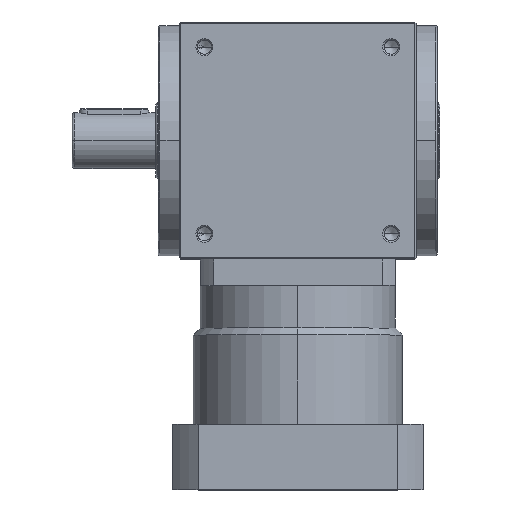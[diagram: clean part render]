
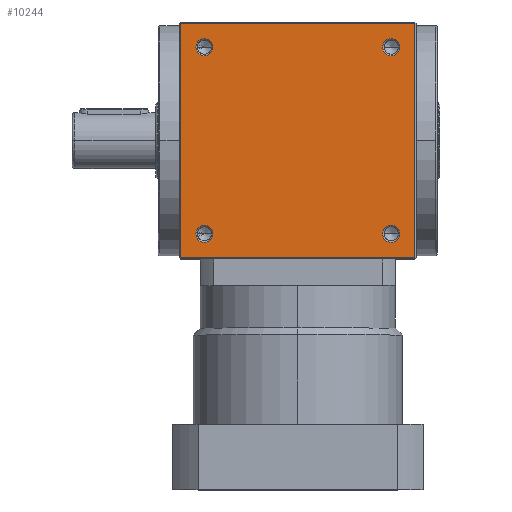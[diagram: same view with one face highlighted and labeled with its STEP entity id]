
A CAD part, top view. The second image highlights one B-rep face of the part: STEP entity #10244.
In plain terms, the highlighted planar face has unit normal (0, 0, 1).
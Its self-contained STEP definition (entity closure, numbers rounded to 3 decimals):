
#50 = LINE ( 'NONE', #6693, #1447 ) ;
#163 = EDGE_CURVE ( 'NONE', #6997, #10049, #1027, .T. ) ;
#608 = ORIENTED_EDGE ( 'NONE', *, *, #3273, .F. ) ;
#650 = VERTEX_POINT ( 'NONE', #9959 ) ;
#812 = DIRECTION ( 'NONE',  ( -1., 0., 0. ) ) ;
#1027 = CIRCLE ( 'NONE', #7655, 6.1 ) ;
#1193 = ORIENTED_EDGE ( 'NONE', *, *, #163, .F. ) ;
#1326 = VERTEX_POINT ( 'NONE', #5992 ) ;
#1447 = VECTOR ( 'NONE', #812, 1000. ) ;
#1719 = EDGE_CURVE ( 'NONE', #10943, #1326, #11638, .T. ) ;
#1745 = CARTESIAN_POINT ( 'NONE',  ( -73.1, -67., 85. ) ) ;
#1786 = AXIS2_PLACEMENT_3D ( 'NONE', #9255, #9245, #9222 ) ;
#1897 = DIRECTION ( 'NONE',  ( 1., 0., 0. ) ) ;
#1902 = DIRECTION ( 'NONE',  ( 0., 0., 1. ) ) ;
#1924 = CARTESIAN_POINT ( 'NONE',  ( 67., 67., 85. ) ) ;
#2108 = ORIENTED_EDGE ( 'NONE', *, *, #8896, .F. ) ;
#2234 = AXIS2_PLACEMENT_3D ( 'NONE', #11172, #11140, #11138 ) ;
#2360 = VERTEX_POINT ( 'NONE', #11634 ) ;
#2532 = VERTEX_POINT ( 'NONE', #10646 ) ;
#2990 = EDGE_LOOP ( 'NONE', ( #7491, #11697 ) ) ;
#3116 = CIRCLE ( 'NONE', #2234, 6.1 ) ;
#3187 = ORIENTED_EDGE ( 'NONE', *, *, #3270, .F. ) ;
#3211 = EDGE_CURVE ( 'NONE', #650, #10429, #6915, .T. ) ;
#3254 = EDGE_CURVE ( 'NONE', #1326, #10943, #6727, .T. ) ;
#3256 = EDGE_CURVE ( 'NONE', #10049, #6997, #6602, .T. ) ;
#3270 = EDGE_CURVE ( 'NONE', #6180, #6046, #6323, .T. ) ;
#3273 = EDGE_CURVE ( 'NONE', #2360, #2532, #6455, .T. ) ;
#3351 = EDGE_CURVE ( 'NONE', #10429, #8931, #5805, .T. ) ;
#3396 = VECTOR ( 'NONE', #3992, 1000. ) ;
#3418 = LINE ( 'NONE', #4001, #3396 ) ;
#3567 = EDGE_CURVE ( 'NONE', #10116, #650, #3418, .T. ) ;
#3614 = DIRECTION ( 'NONE',  ( 1., 0., 0. ) ) ;
#3621 = DIRECTION ( 'NONE',  ( 0., 0., 1. ) ) ;
#3624 = CARTESIAN_POINT ( 'NONE',  ( -67., 67., 85. ) ) ;
#3992 = DIRECTION ( 'NONE',  ( 0., -1., 0. ) ) ;
#4001 = CARTESIAN_POINT ( 'NONE',  ( 84., 0., 85. ) ) ;
#4038 = EDGE_CURVE ( 'NONE', #10116, #8931, #50, .T. ) ;
#4370 = ORIENTED_EDGE ( 'NONE', *, *, #3351, .F. ) ;
#4538 = FACE_BOUND ( 'NONE', #8251, .T. ) ;
#5250 = FACE_BOUND ( 'NONE', #9039, .T. ) ;
#5297 = CARTESIAN_POINT ( 'NONE',  ( -84., 0., 85. ) ) ;
#5380 = DIRECTION ( 'NONE',  ( 0., 1., 0. ) ) ;
#5535 = CIRCLE ( 'NONE', #6349, 6.1 ) ;
#5592 = DIRECTION ( 'NONE',  ( 1., 0., 0. ) ) ;
#5609 = DIRECTION ( 'NONE',  ( 0., 0., 1. ) ) ;
#5624 = CARTESIAN_POINT ( 'NONE',  ( 67., -67., 85. ) ) ;
#5641 = DIRECTION ( 'NONE',  ( 1., 0., 0. ) ) ;
#5649 = VECTOR ( 'NONE', #5380, 1000. ) ;
#5654 = DIRECTION ( 'NONE',  ( 0., 0., 1. ) ) ;
#5665 = CARTESIAN_POINT ( 'NONE',  ( -67., -67., 85. ) ) ;
#5698 = DIRECTION ( 'NONE',  ( 1., 0., 0. ) ) ;
#5699 = CARTESIAN_POINT ( 'NONE',  ( 60.9, 67., 85. ) ) ;
#5710 = DIRECTION ( 'NONE',  ( 0., 0., 1. ) ) ;
#5730 = CARTESIAN_POINT ( 'NONE',  ( 67., 67., 85. ) ) ;
#5805 = LINE ( 'NONE', #5297, #5649 ) ;
#5876 = DIRECTION ( 'NONE',  ( 1., 0., 0. ) ) ;
#5889 = DIRECTION ( 'NONE',  ( 0., 0., 1. ) ) ;
#5897 = CARTESIAN_POINT ( 'NONE',  ( -67., 67., 85. ) ) ;
#5992 = CARTESIAN_POINT ( 'NONE',  ( -60.9, 67., 85. ) ) ;
#6046 = VERTEX_POINT ( 'NONE', #1745 ) ;
#6070 = CARTESIAN_POINT ( 'NONE',  ( 0., -84., 85. ) ) ;
#6080 = FACE_BOUND ( 'NONE', #8763, .T. ) ;
#6098 = DIRECTION ( 'NONE',  ( -1., 0., 0. ) ) ;
#6119 = CARTESIAN_POINT ( 'NONE',  ( -84., -84., 85. ) ) ;
#6180 = VERTEX_POINT ( 'NONE', #11750 ) ;
#6323 = CIRCLE ( 'NONE', #7734, 6.1 ) ;
#6349 = AXIS2_PLACEMENT_3D ( 'NONE', #10267, #10254, #10252 ) ;
#6455 = CIRCLE ( 'NONE', #7222, 6.1 ) ;
#6602 = CIRCLE ( 'NONE', #9206, 6.1 ) ;
#6689 = VECTOR ( 'NONE', #6098, 1000. ) ;
#6693 = CARTESIAN_POINT ( 'NONE',  ( 0., 84., 85. ) ) ;
#6727 = CIRCLE ( 'NONE', #8976, 6.1 ) ;
#6769 = CARTESIAN_POINT ( 'NONE',  ( -73.1, 67., 85. ) ) ;
#6812 = FACE_OUTER_BOUND ( 'NONE', #8842, .T. ) ;
#6915 = LINE ( 'NONE', #6070, #6689 ) ;
#6997 = VERTEX_POINT ( 'NONE', #5699 ) ;
#7222 = AXIS2_PLACEMENT_3D ( 'NONE', #5624, #5609, #5592 ) ;
#7491 = ORIENTED_EDGE ( 'NONE', *, *, #3254, .F. ) ;
#7655 = AXIS2_PLACEMENT_3D ( 'NONE', #1924, #1902, #1897 ) ;
#7734 = AXIS2_PLACEMENT_3D ( 'NONE', #5665, #5654, #5641 ) ;
#8251 = EDGE_LOOP ( 'NONE', ( #3187, #2108 ) ) ;
#8763 = EDGE_LOOP ( 'NONE', ( #10650, #1193 ) ) ;
#8842 = EDGE_LOOP ( 'NONE', ( #10371, #10550, #4370, #9274 ) ) ;
#8896 = EDGE_CURVE ( 'NONE', #6046, #6180, #5535, .T. ) ;
#8931 = VERTEX_POINT ( 'NONE', #9906 ) ;
#8976 = AXIS2_PLACEMENT_3D ( 'NONE', #5897, #5889, #5876 ) ;
#9039 = EDGE_LOOP ( 'NONE', ( #608, #10193 ) ) ;
#9206 = AXIS2_PLACEMENT_3D ( 'NONE', #5730, #5710, #5698 ) ;
#9222 = DIRECTION ( 'NONE',  ( -1., 0., 0. ) ) ;
#9245 = DIRECTION ( 'NONE',  ( 0., 0., -1. ) ) ;
#9255 = CARTESIAN_POINT ( 'NONE',  ( 0., 0., 85. ) ) ;
#9274 = ORIENTED_EDGE ( 'NONE', *, *, #3211, .F. ) ;
#9513 = PLANE ( 'NONE',  #1786 ) ;
#9864 = AXIS2_PLACEMENT_3D ( 'NONE', #3624, #3621, #3614 ) ;
#9906 = CARTESIAN_POINT ( 'NONE',  ( -84., 84., 85. ) ) ;
#9959 = CARTESIAN_POINT ( 'NONE',  ( 84., -84., 85. ) ) ;
#10049 = VERTEX_POINT ( 'NONE', #11503 ) ;
#10081 = EDGE_CURVE ( 'NONE', #2532, #2360, #3116, .T. ) ;
#10116 = VERTEX_POINT ( 'NONE', #10762 ) ;
#10193 = ORIENTED_EDGE ( 'NONE', *, *, #10081, .F. ) ;
#10244 = ADVANCED_FACE ( 'NONE', ( #5250, #4538, #6080, #11692, #6812 ), #9513, .F. ) ;
#10252 = DIRECTION ( 'NONE',  ( 1., 0., 0. ) ) ;
#10254 = DIRECTION ( 'NONE',  ( 0., 0., 1. ) ) ;
#10267 = CARTESIAN_POINT ( 'NONE',  ( -67., -67., 85. ) ) ;
#10371 = ORIENTED_EDGE ( 'NONE', *, *, #3567, .F. ) ;
#10429 = VERTEX_POINT ( 'NONE', #6119 ) ;
#10550 = ORIENTED_EDGE ( 'NONE', *, *, #4038, .T. ) ;
#10646 = CARTESIAN_POINT ( 'NONE',  ( 60.9, -67., 85. ) ) ;
#10650 = ORIENTED_EDGE ( 'NONE', *, *, #3256, .F. ) ;
#10762 = CARTESIAN_POINT ( 'NONE',  ( 84., 84., 85. ) ) ;
#10943 = VERTEX_POINT ( 'NONE', #6769 ) ;
#11138 = DIRECTION ( 'NONE',  ( 1., 0., 0. ) ) ;
#11140 = DIRECTION ( 'NONE',  ( 0., 0., 1. ) ) ;
#11172 = CARTESIAN_POINT ( 'NONE',  ( 67., -67., 85. ) ) ;
#11503 = CARTESIAN_POINT ( 'NONE',  ( 73.1, 67., 85. ) ) ;
#11634 = CARTESIAN_POINT ( 'NONE',  ( 73.1, -67., 85. ) ) ;
#11638 = CIRCLE ( 'NONE', #9864, 6.1 ) ;
#11692 = FACE_BOUND ( 'NONE', #2990, .T. ) ;
#11697 = ORIENTED_EDGE ( 'NONE', *, *, #1719, .F. ) ;
#11750 = CARTESIAN_POINT ( 'NONE',  ( -60.9, -67., 85. ) ) ;
